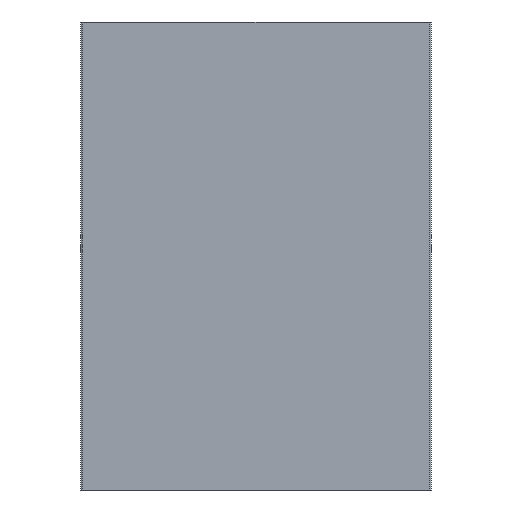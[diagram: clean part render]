
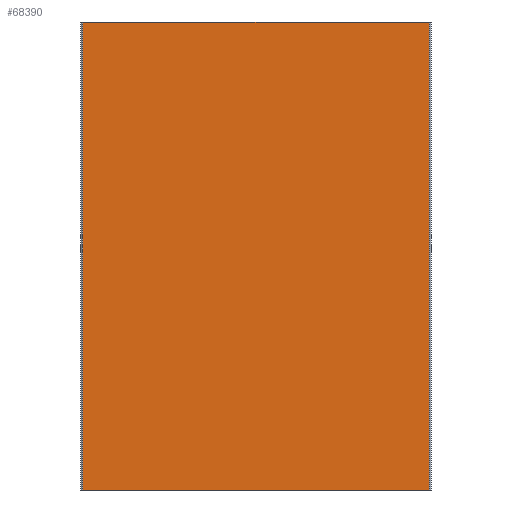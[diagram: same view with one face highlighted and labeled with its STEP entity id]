
A CAD part, left-side view. The second image highlights one B-rep face of the part: STEP entity #68390.
In plain terms, the highlighted planar face has unit normal (-1, 0, 0).
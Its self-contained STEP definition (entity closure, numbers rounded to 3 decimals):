
#1936 = DIRECTION ( 'NONE',  ( 0., -1., 0. ) ) ;
#15505 = ORIENTED_EDGE ( 'NONE', *, *, #66239, .F. ) ;
#16316 = DIRECTION ( 'NONE',  ( 1., 0., 0. ) ) ;
#19051 = EDGE_CURVE ( 'NONE', #48007, #50196, #47059, .T. ) ;
#22356 = VECTOR ( 'NONE', #55368, 1000. ) ;
#25356 = CARTESIAN_POINT ( 'NONE',  ( 65.613, 226.941, 100. ) ) ;
#34697 = CARTESIAN_POINT ( 'NONE',  ( 65.613, 152.941, 0. ) ) ;
#36708 = DIRECTION ( 'NONE',  ( 0., 0., -1. ) ) ;
#36917 = CARTESIAN_POINT ( 'NONE',  ( 65.613, 152.941, 100. ) ) ;
#37635 = VECTOR ( 'NONE', #39131, 1000. ) ;
#38081 = VERTEX_POINT ( 'NONE', #53074 ) ;
#38577 = CARTESIAN_POINT ( 'NONE',  ( 65.613, 226.941, 100. ) ) ;
#39131 = DIRECTION ( 'NONE',  ( 0., -1., 0. ) ) ;
#44986 = AXIS2_PLACEMENT_3D ( 'NONE', #84629, #16316, #64272 ) ;
#45356 = EDGE_CURVE ( 'NONE', #47081, #38081, #75114, .T. ) ;
#47059 = LINE ( 'NONE', #48498, #22356 ) ;
#47081 = VERTEX_POINT ( 'NONE', #38577 ) ;
#48007 = VERTEX_POINT ( 'NONE', #36917 ) ;
#48498 = CARTESIAN_POINT ( 'NONE',  ( 65.613, 152.941, 100. ) ) ;
#50196 = VERTEX_POINT ( 'NONE', #34697 ) ;
#53074 = CARTESIAN_POINT ( 'NONE',  ( 65.613, 226.941, 0. ) ) ;
#55368 = DIRECTION ( 'NONE',  ( 0., 0., -1. ) ) ;
#55844 = LINE ( 'NONE', #25356, #37635 ) ;
#60657 = ORIENTED_EDGE ( 'NONE', *, *, #73268, .T. ) ;
#64272 = DIRECTION ( 'NONE',  ( 0., 0., -1. ) ) ;
#66239 = EDGE_CURVE ( 'NONE', #47081, #48007, #55844, .T. ) ;
#68390 = ADVANCED_FACE ( 'NONE', ( #68533 ), #77706, .F. ) ;
#68533 = FACE_OUTER_BOUND ( 'NONE', #73330, .T. ) ;
#69782 = LINE ( 'NONE', #84030, #85898 ) ;
#70974 = ORIENTED_EDGE ( 'NONE', *, *, #19051, .F. ) ;
#73004 = ORIENTED_EDGE ( 'NONE', *, *, #45356, .T. ) ;
#73268 = EDGE_CURVE ( 'NONE', #38081, #50196, #69782, .T. ) ;
#73330 = EDGE_LOOP ( 'NONE', ( #60657, #70974, #15505, #73004 ) ) ;
#75114 = LINE ( 'NONE', #77700, #77297 ) ;
#77297 = VECTOR ( 'NONE', #36708, 1000. ) ;
#77700 = CARTESIAN_POINT ( 'NONE',  ( 65.613, 226.941, 100. ) ) ;
#77706 = PLANE ( 'NONE',  #44986 ) ;
#84030 = CARTESIAN_POINT ( 'NONE',  ( 65.613, 226.941, 0. ) ) ;
#84629 = CARTESIAN_POINT ( 'NONE',  ( 65.613, 226.941, 100. ) ) ;
#85898 = VECTOR ( 'NONE', #1936, 1000. ) ;
